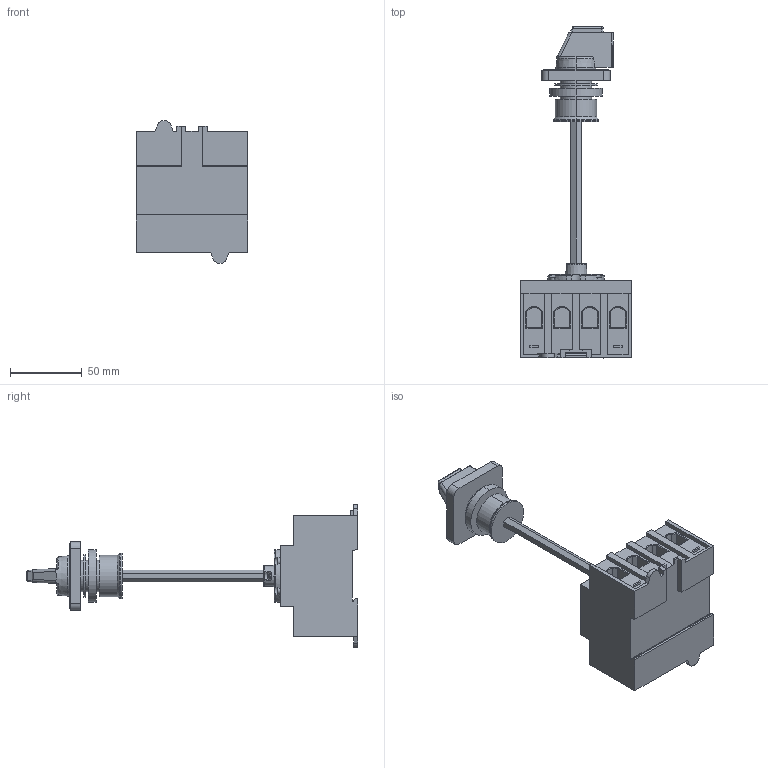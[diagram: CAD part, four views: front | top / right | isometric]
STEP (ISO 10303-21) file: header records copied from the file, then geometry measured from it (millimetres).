
FILE_DESCRIPTION (( 'STEP AP203' ), '1' );
FILE_NAME ('LTS85_100_125 VZVHN1 A4.STEP', '2014-05-14T06:50:44', ( '' ), ( '' ), 'SwSTEP 2.0', 'SolidWorks 2014', '' );
FILE_SCHEMA (( 'CONFIG_CONTROL_DESIGN' ));
Length unit declared in the file: millimetre
Products named in the file (6): LTS85_100_125 VZVHN1 A4; Schalterkörper LTS125 V; Zwischenring; 8184; Achse TK-LT_100_300; TK2Z H1
Assembly tree (5 placements, depth 2):
  LTS85_100_125 VZVHN1 A4
    Schalterkörper LTS125 V
    Zwischenring
    8184
    Achse TK-LT_100_300
    TK2Z H1
Bounding box: 78 x 232.1 x 100 mm (x, y, z)
Volume: 343292.7 mm3; surface area: 61013.2 mm2
Topology: 5 solids, 5 shells, 538 faces, 1354 edges, 868 vertices
Faces by surface type: plane 330, cylinder 116, bspline 53, cone 32, torus 7
Entity records: 19315 total; most frequent: CARTESIAN_POINT 6058, ORIENTED_EDGE 2700, DIRECTION 2480, EDGE_CURVE 1350, VERTEX_POINT 868, LINE 864, VECTOR 864, AXIS2_PLACEMENT_3D 808
